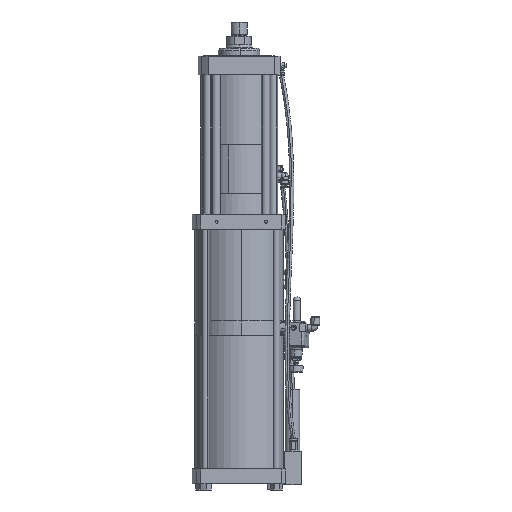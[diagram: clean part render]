
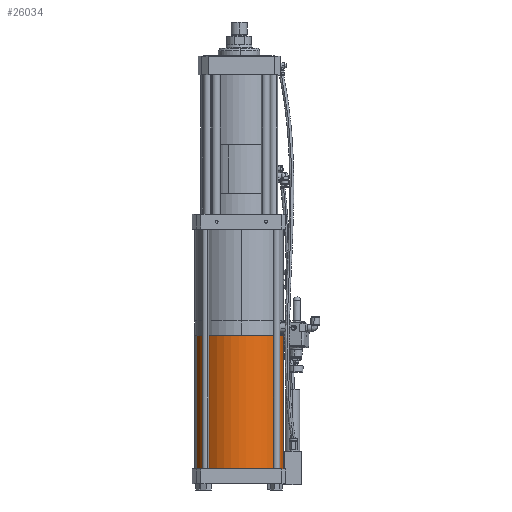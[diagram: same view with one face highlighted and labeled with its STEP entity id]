
A CAD part, front view. The second image highlights one B-rep face of the part: STEP entity #26034.
In plain terms, the highlighted cylindrical face has radius 107.5 mm (diameter 215 mm), a partial arc.
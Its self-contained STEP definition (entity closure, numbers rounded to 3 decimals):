
#705 = AXIS2_PLACEMENT_3D ( 'NONE', #10595, #25240, #14544 ) ;
#1568 = DIRECTION ( 'NONE',  ( 0., 0., -1. ) ) ;
#2263 = EDGE_CURVE ( 'NONE', #14341, #16907, #6095, .T. ) ;
#2946 = CIRCLE ( 'NONE', #24536, 107.5 ) ;
#3084 = AXIS2_PLACEMENT_3D ( 'NONE', #14886, #6422, #27547 ) ;
#3111 = CARTESIAN_POINT ( 'NONE',  ( 264.238, 32.564, -554.56 ) ) ;
#3361 = CARTESIAN_POINT ( 'NONE',  ( 365.505, 68.637, -554.56 ) ) ;
#3741 = CARTESIAN_POINT ( 'NONE',  ( 162.971, -3.509, -554.56 ) ) ;
#4310 = FACE_OUTER_BOUND ( 'NONE', #22246, .T. ) ;
#5176 = VECTOR ( 'NONE', #7473, 1000. ) ;
#5324 = CARTESIAN_POINT ( 'NONE',  ( 162.971, -3.509, -876.56 ) ) ;
#5938 = LINE ( 'NONE', #20884, #18167 ) ;
#6095 = CIRCLE ( 'NONE', #705, 107.5 ) ;
#6422 = DIRECTION ( 'NONE',  ( 0., 0., -1. ) ) ;
#7473 = DIRECTION ( 'NONE',  ( 0., 0., -1. ) ) ;
#7647 = ORIENTED_EDGE ( 'NONE', *, *, #20537, .F. ) ;
#8203 = VERTEX_POINT ( 'NONE', #3361 ) ;
#8595 = VERTEX_POINT ( 'NONE', #3741 ) ;
#9582 = DIRECTION ( 'NONE',  ( 0.942, 0.336, 0. ) ) ;
#10595 = CARTESIAN_POINT ( 'NONE',  ( 264.238, 32.564, -876.56 ) ) ;
#11250 = ORIENTED_EDGE ( 'NONE', *, *, #2263, .T. ) ;
#13779 = EDGE_CURVE ( 'NONE', #8595, #14341, #16084, .T. ) ;
#13819 = EDGE_CURVE ( 'NONE', #8595, #8203, #2946, .T. ) ;
#14090 = DIRECTION ( 'NONE',  ( 0., 0., 1. ) ) ;
#14102 = ORIENTED_EDGE ( 'NONE', *, *, #13779, .T. ) ;
#14341 = VERTEX_POINT ( 'NONE', #5324 ) ;
#14544 = DIRECTION ( 'NONE',  ( 0.942, 0.336, 0. ) ) ;
#14886 = CARTESIAN_POINT ( 'NONE',  ( 264.238, 32.564, -554.56 ) ) ;
#16084 = LINE ( 'NONE', #24369, #5176 ) ;
#16907 = VERTEX_POINT ( 'NONE', #17714 ) ;
#17714 = CARTESIAN_POINT ( 'NONE',  ( 365.505, 68.637, -876.56 ) ) ;
#18167 = VECTOR ( 'NONE', #1568, 1000. ) ;
#20190 = ORIENTED_EDGE ( 'NONE', *, *, #13819, .F. ) ;
#20537 = EDGE_CURVE ( 'NONE', #8203, #16907, #5938, .T. ) ;
#20884 = CARTESIAN_POINT ( 'NONE',  ( 365.505, 68.637, -554.56 ) ) ;
#22246 = EDGE_LOOP ( 'NONE', ( #7647, #20190, #14102, #11250 ) ) ;
#24369 = CARTESIAN_POINT ( 'NONE',  ( 162.971, -3.509, -554.56 ) ) ;
#24536 = AXIS2_PLACEMENT_3D ( 'NONE', #3111, #14090, #9582 ) ;
#25240 = DIRECTION ( 'NONE',  ( 0., 0., 1. ) ) ;
#25856 = CYLINDRICAL_SURFACE ( 'NONE', #3084, 107.5 ) ;
#26034 = ADVANCED_FACE ( 'NONE', ( #4310 ), #25856, .T. ) ;
#27547 = DIRECTION ( 'NONE',  ( -0.942, -0.336, 0. ) ) ;
